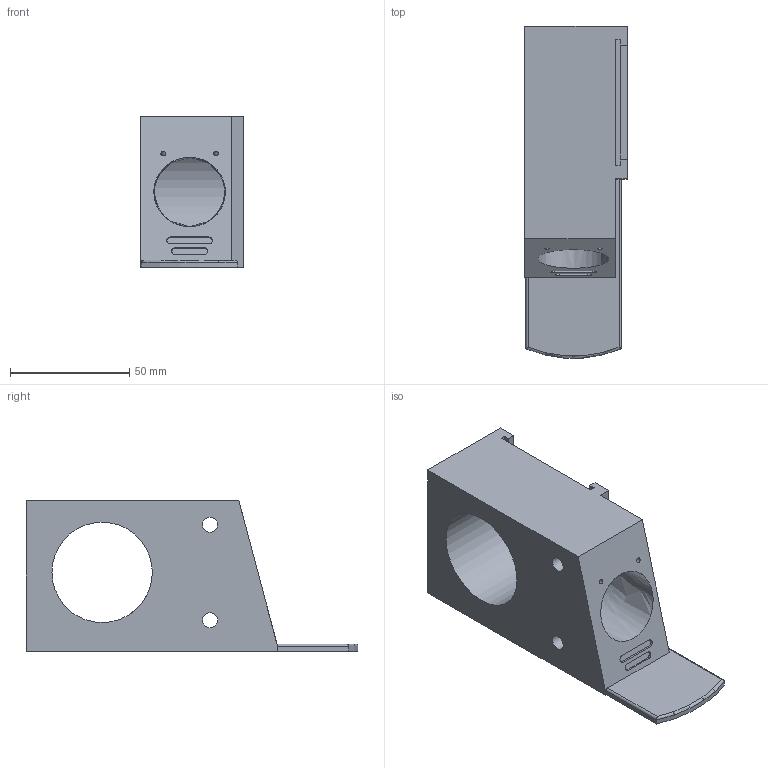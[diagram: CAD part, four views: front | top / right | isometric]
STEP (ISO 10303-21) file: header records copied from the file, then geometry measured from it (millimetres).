
FILE_DESCRIPTION(/* description */ ('STEP AP242','CAx-IF Rec.Pracs.---Representation and Presentation of Product Manufacturing Information (PMI)---4.0---2014-10-13','CAx-IF Rec.Pracs.---3D Tessellated Geometry---0.4---2014-09-14','2;1'),/* implementation_level */ '2;1');
FILE_NAME(/* name */ '689872e97e80ac6e4d2c92f5',/* time_stamp */ '2025-08-10T10:22:34Z',/* author */ (''),/* organization */ (''),/* preprocessor_version */ 'ST-DEVELOPER v20',/* originating_system */ 'ONSHAPE BY PTC INC, 1.202',/* authorisation */ ' ');
FILE_SCHEMA (('AP242_MANAGED_MODEL_BASED_3D_ENGINEERING_MIM_LF { 1 0 10303 442 1 1 4 }'));
Length unit declared in the file: metre
Products named in the file (1): Part 1
Bounding box: 43 x 138.84 x 63 mm (x, y, z)
Volume: 156471.1 mm3; surface area: 36789.3 mm2
Topology: 1 solids, 1 shells, 44 faces, 113 edges, 74 vertices
Faces by surface type: plane 28, cylinder 12, cone 2, torus 1, bspline 1
Full cylindrical faces by diameter (mm): 2 x2, 6.35 x2, 42 x1
Entity records: 1361 total; most frequent: CARTESIAN_POINT 290, DIRECTION 212, ORIENTED_EDGE 202, EDGE_CURVE 101, LINE 72, VECTOR 72, VERTEX_POINT 71, AXIS2_PLACEMENT_3D 70
